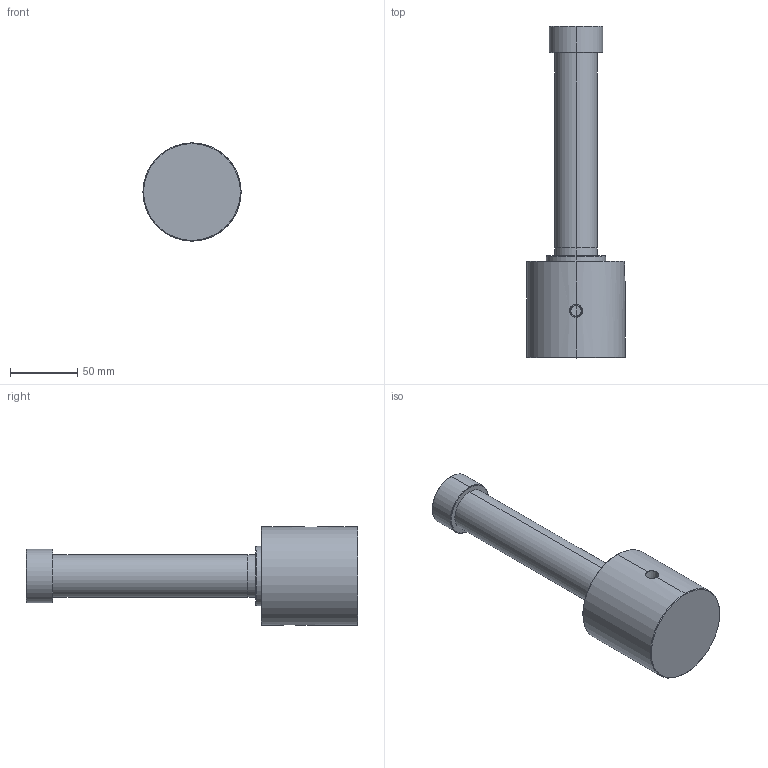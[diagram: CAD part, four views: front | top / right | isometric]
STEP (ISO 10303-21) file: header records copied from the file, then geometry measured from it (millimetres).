
FILE_DESCRIPTION((' '),'2;1');
FILE_NAME( 'TMG-2-255_step.prt.stp', '2024-08-27T14:05:43', (' '), ('--- Datakit www.datakit.com---'), ' Datakit CrossCadWare V2024.1 Dec 21 2023', 'Mastercam 2025', ' ');
FILE_SCHEMA(('AUTOMOTIVE_DESIGN { 1 0 10303 214 1 1 1 1 }'));
Length unit declared in the file: millimetre
Products named in the file (1): TMG-2-255_step
Bounding box: 73 x 247 x 73 mm (x, y, z)
Volume: 309886.9 mm3; surface area: 67063.1 mm2
Topology: 1 solids, 1 shells, 74 faces, 173 edges, 110 vertices
Faces by surface type: cylinder 35, plane 20, cone 19
Entity records: 2305 total; most frequent: CARTESIAN_POINT 557, DIRECTION 385, ORIENTED_EDGE 338, EDGE_CURVE 169, AXIS2_PLACEMENT_3D 160, VERTEX_POINT 110, EDGE_LOOP 89, CIRCLE 85
